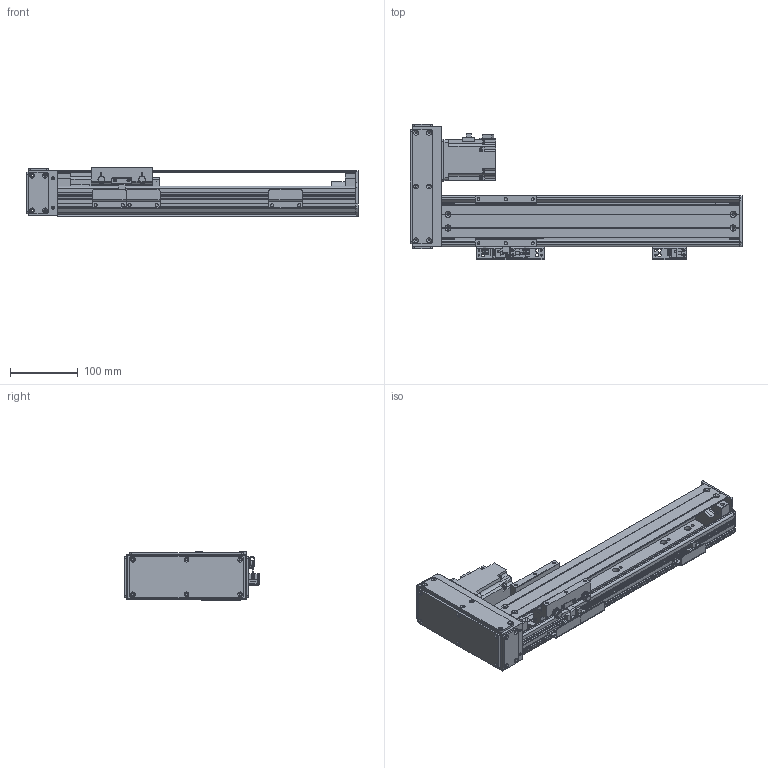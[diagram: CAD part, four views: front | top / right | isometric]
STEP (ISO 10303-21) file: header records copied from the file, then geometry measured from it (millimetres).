
FILE_DESCRIPTION(/* description */ (''),/* implementation_level */ '2;1');
FILE_NAME(/* name */ '\\192.168.0.160\disk1\HAN SHIN Master\B-설계부문\C-표준\B-2024년\BC02-표준도면\+로봇 개선표준도면\표준 승인도 작업 폴더\3D\HG75\HG75병렬\좌병렬\HG75-L20-N1B-0250-R10.stp',/* time_stamp */ '2024-02-02T08:46:02+09:00',/* author */ ('User'),/* organization */ (''),/* preprocessor_version */ 'ST-DEVELOPER v18.1',/* originating_system */ 'Autodesk Inventor 2022',/* authorisation */ '');
FILE_SCHEMA (('AUTOMOTIVE_DESIGN { 1 0 10303 214 3 1 1 }'));
Products named in the file (25): HG75-L20-N1B-0500-R10 - 간소화; BASE; HR75 FRONT BLOCK; HR75 REAR COVER-TENTION; HR75 TENSION REAR BLOCK; HG3UPCOV001; H 15F_BLOCK; HR65,75 SENSOR DOG; HG90STOPPER - 20L; HG90STOPPER - 27L; MOTOR PLATE-200W(MITSUBISHI); HC75-LR-MOTOR PLATE(200W)-사출; 화살표; HR75-LR-BELT COVER(200W); HR75-BELT COVER-COVER2; HR75-BELT COVER-COVER; hg-kr23_; HR65-BELT COVER-COVER3; hsr_ftht_A-M6F_grease_nipple_joint; NIPPLE CAP(신규); M-5HL-4; HR75 W TABLE; LMKE1520 NUT; SENSOR BRK(EE-SX674A); EE_SX674A
Assembly tree (32 placements, depth 2):
  HG75-L20-N1B-0500-R10 - 간소화
    BASE
    HR75 FRONT BLOCK
    HR75 REAR COVER-TENTION
    SENSOR BRK(EE-SX674A)  x3
    EE_SX674A  x3
    HR75 TENSION REAR BLOCK
    HG3UPCOV001
    H 15F_BLOCK
    HR65,75 SENSOR DOG
    HG90STOPPER - 20L
    HG90STOPPER - 27L
    MOTOR PLATE-200W(MITSUBISHI)
    HC75-LR-MOTOR PLATE(200W)-사출
    화살표  x2
    HR75-LR-BELT COVER(200W)
    HR75-BELT COVER-COVER2
    HR75-BELT COVER-COVER
    HR65-BELT COVER-COVER3  x2
    hg-kr23_
    hsr_ftht_A-M6F_grease_nipple_joint  x2
    NIPPLE CAP(신규)  x2
    M-5HL-4
    HR75 W TABLE
    LMKE1520 NUT
Bounding box: 489 x 199 x 73 mm (x, y, z)
Volume: 1193206.2 mm3; surface area: 512196.6 mm2
Topology: 32 solids, 32 shells, 3097 faces, 8550 edges, 5648 vertices
Faces by surface type: plane 2255, cylinder 657, cone 141, sphere 24, torus 12, bspline 8
Full cylindrical faces by diameter (mm): 1.8 x1, 2 x4, 2.013 x2, 2.459 x16, 2.5 x2, 3 x8, 3.242 x53, 3.4 x20, 3.5 x6, 4.134 x44, 4.5 x22, 4.917 x5, 5 x30, 5.5 x28, 5.6 x10, 5.8 x4, 5.9 x8, 6 x6, 6.5 x5, 7 x1, 8 x1, 9.5 x24, 14 x1, 15 x3, 17 x1, 20 x1, 25 x2, 28 x1, 32 x2, 33.7 x1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
Entity records: 91630 total; most frequent: CARTESIAN_POINT 16858, ORIENTED_EDGE 15474, DIRECTION 14717, EDGE_CURVE 7737, LINE 6257, VECTOR 6257, VERTEX_POINT 5149, AXIS2_PLACEMENT_3D 4230
